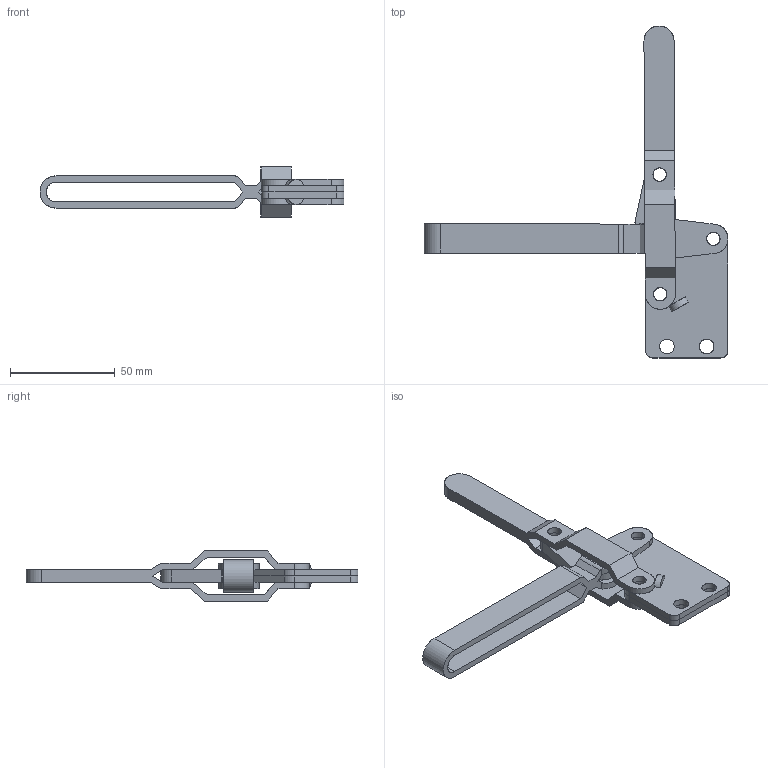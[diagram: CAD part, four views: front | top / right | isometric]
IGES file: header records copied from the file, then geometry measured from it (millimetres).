
Start section: SolidWorks IGES file using analytic representation for surfaces
Global section: file name: D:\GH Files\GH-SW-FILES\GH1\GH-101D\101EI\GH-101EI.IGS; native system: SolidWorks 2006 by SolidWorks Corporation; preprocessor: SolidWorks 2006 by SolidWorks Corporation; author: Administrator; date: 060825.171234; units: millimetre
Bounding box: 145.41 x 158.8 x 24 mm (x, y, z)
Surface area: 29827.3 mm2 (no closed solid volume)
Topology: 0 solids, 0 shells, 143 faces, 2396 edges, 2396 vertices
Faces by surface type: bspline 74, revolution 69
